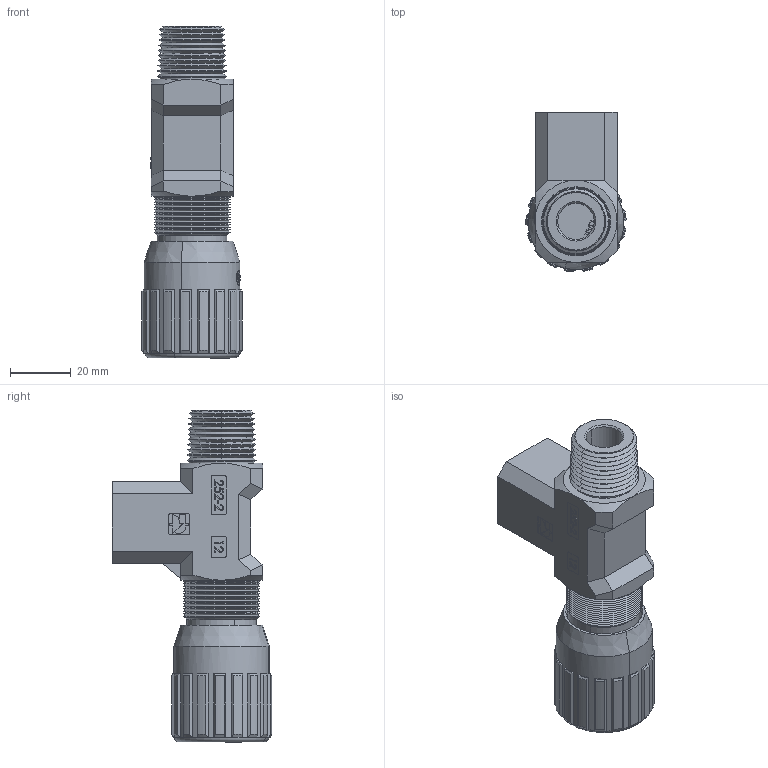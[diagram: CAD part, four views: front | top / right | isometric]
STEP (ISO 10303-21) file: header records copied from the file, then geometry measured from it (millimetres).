
FILE_DESCRIPTION (( 'STEP AP214' ), '1' );
FILE_NAME ('252-2-12 VOLANTINO M-F.STEP', '2015-05-15T15:41:00', ( '' ), ( '' ), 'SwSTEP 2.0', 'SolidWorks 2014', '' );
FILE_SCHEMA (( 'AUTOMOTIVE_DESIGN' ));
Length unit declared in the file: millimetre
Products named in the file (1): 252-2-12 VOLANTINO  M-F
Bounding box: 32.98 x 52.48 x 109.25 mm (x, y, z)
Surface area: 20622.8 mm2 (no closed solid volume)
Topology: 0 solids, 12 shells, 639 faces, 1970 edges, 1286 vertices
Faces by surface type: plane 313, cone 204, cylinder 80, bspline 40, torus 2
Entity records: 31510 total; most frequent: CARTESIAN_POINT 7361, DIRECTION 3414, ORIENTED_EDGE 3409, EDGE_CURVE 1970, VECTOR 1320, LINE 1320, VERTEX_POINT 1286, AXIS2_PLACEMENT_3D 1047
